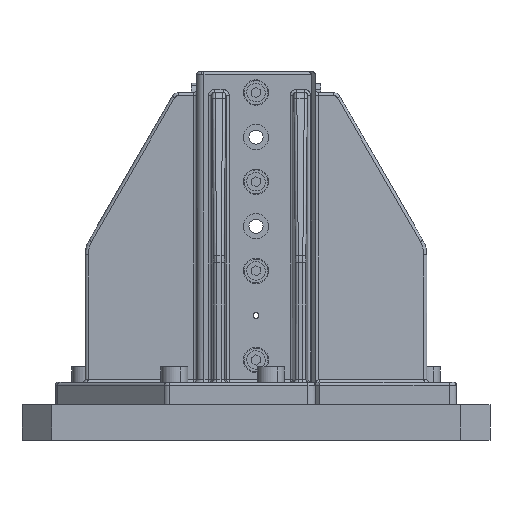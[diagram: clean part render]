
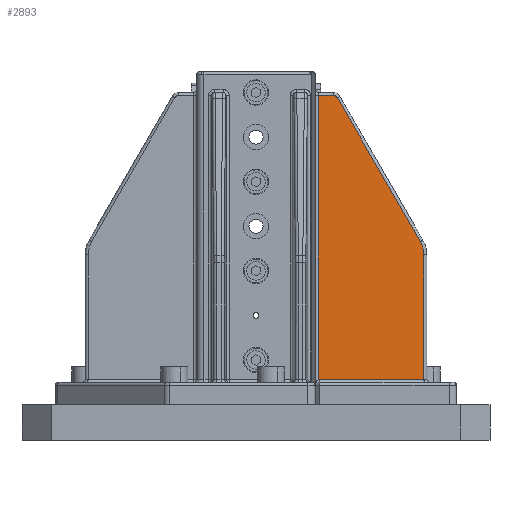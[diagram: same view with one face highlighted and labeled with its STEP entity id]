
A CAD part, front view. The second image highlights one B-rep face of the part: STEP entity #2893.
In plain terms, the highlighted planar face has unit normal (0.035, -0.999, 0).
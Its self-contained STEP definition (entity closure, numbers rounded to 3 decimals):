
#2893=ADVANCED_FACE('Volumen.1',(#6767),#6768,.F.);
#6767=FACE_OUTER_BOUND('',#13343,.T.);
#6768=PLANE('',#13344);
#13343=EDGE_LOOP('',(#22753,#22754,#22755,#22756,#22757,#22758,#22759,#22760));
#13344=AXIS2_PLACEMENT_3D('',#22761,#22762,#22763);
#22753=ORIENTED_EDGE('',*,*,#34057,.F.);
#22754=ORIENTED_EDGE('',*,*,#34058,.T.);
#22755=ORIENTED_EDGE('',*,*,#34059,.T.);
#22756=ORIENTED_EDGE('',*,*,#34060,.T.);
#22757=ORIENTED_EDGE('',*,*,#34061,.F.);
#22758=ORIENTED_EDGE('',*,*,#33727,.F.);
#22759=ORIENTED_EDGE('',*,*,#33723,.F.);
#22760=ORIENTED_EDGE('',*,*,#33719,.F.);
#22761=CARTESIAN_POINT('',(40.0,-35.0,136.5));
#22762=DIRECTION('',(-0.035,0.999,0.0));
#22763=DIRECTION('',(0.0,0.0,-1.0));
#33719=EDGE_CURVE('',#39794,#39796,#39797,.T.);
#33723=EDGE_CURVE('',#39796,#39802,#39803,.T.);
#33727=EDGE_CURVE('',#39802,#39808,#39809,.T.);
#34057=EDGE_CURVE('',#40267,#39794,#40268,.F.);
#34058=EDGE_CURVE('',#40267,#40269,#40270,.T.);
#34059=EDGE_CURVE('',#40269,#40271,#40272,.T.);
#34060=EDGE_CURVE('',#40271,#40273,#40274,.F.);
#34061=EDGE_CURVE('',#39808,#40273,#40275,.T.);
#39794=VERTEX_POINT('',#48143);
#39796=VERTEX_POINT('',#48145);
#39797=B_SPLINE_CURVE_WITH_KNOTS('',5,(#48146,#48147,#48148,#48149,#48150,#48151),.UNSPECIFIED.,.F.,.F.,(6,6),(15.269,21.377),.UNSPECIFIED.);
#39802=VERTEX_POINT('',#48166);
#39803=B_SPLINE_CURVE_WITH_KNOTS('',1,(#48167,#48168),.UNSPECIFIED.,.F.,.F.,(2,2),(-51.22,60.552),.UNSPECIFIED.);
#39808=VERTEX_POINT('',#48174);
#39809=B_SPLINE_CURVE_WITH_KNOTS('',4,(#48175,#48176,#48177,#48178,#48179),.UNSPECIFIED.,.F.,.F.,(5,5),(77.511,91.601),.UNSPECIFIED.);
#40267=VERTEX_POINT('',#49212);
#40268=LINE('',#49213,#49214);
#40269=VERTEX_POINT('',#49215);
#40270=LINE('',#49216,#49217);
#40271=VERTEX_POINT('',#49218);
#40272=B_SPLINE_CURVE_WITH_KNOTS('',3,(#49219,#49220,#49221,#49222),.UNSPECIFIED.,.F.,.F.,(4,4),(22.503,23.223),.UNSPECIFIED.);
#40273=VERTEX_POINT('',#49223);
#40274=LINE('',#49224,#49225);
#40275=LINE('',#49226,#49227);
#48143=CARTESIAN_POINT('',(52.183,-34.575,232.0));
#48145=CARTESIAN_POINT('',(54.781,-34.484,230.5));
#48146=CARTESIAN_POINT('',(52.183,-34.575,232.));
#48147=CARTESIAN_POINT('',(52.811,-34.553,232.));
#48148=CARTESIAN_POINT('',(53.44,-34.531,231.836));
#48149=CARTESIAN_POINT('',(54.01,-34.511,231.506));
#48150=CARTESIAN_POINT('',(54.467,-34.495,231.044));
#48151=CARTESIAN_POINT('',(54.781,-34.484,230.5));
#48166=CARTESIAN_POINT('',(110.658,-32.533,133.718));
#48167=CARTESIAN_POINT('',(54.781,-34.484,230.5));
#48168=CARTESIAN_POINT('',(110.658,-32.533,133.718));
#48174=CARTESIAN_POINT('',(113.07,-32.448,124.718));
#48175=CARTESIAN_POINT('',(110.658,-32.533,133.718));
#48176=CARTESIAN_POINT('',(111.836,-32.491,131.678));
#48177=CARTESIAN_POINT('',(112.658,-32.463,129.431));
#48178=CARTESIAN_POINT('',(113.07,-32.448,127.074));
#48179=CARTESIAN_POINT('',(113.07,-32.448,124.718));
#49212=CARTESIAN_POINT('',(41.93,-34.933,232.0));
#49213=CARTESIAN_POINT('',(77.771,-33.681,232.0));
#49214=VECTOR('',#58966,1.0);
#49215=CARTESIAN_POINT('',(41.93,-34.933,40.978));
#49216=CARTESIAN_POINT('',(41.93,-34.933,143.5));
#49217=VECTOR('',#58967,1.0);
#49218=CARTESIAN_POINT('',(42.499,-34.913,41.));
#49219=CARTESIAN_POINT('',(41.93,-34.933,40.978));
#49220=CARTESIAN_POINT('',(42.119,-34.926,40.993));
#49221=CARTESIAN_POINT('',(42.309,-34.919,41.));
#49222=CARTESIAN_POINT('',(42.499,-34.913,41.));
#49223=CARTESIAN_POINT('',(113.07,-32.448,41.0));
#49224=CARTESIAN_POINT('',(77.771,-33.681,41.0));
#49225=VECTOR('',#58968,1.0);
#49226=CARTESIAN_POINT('',(113.07,-32.448,143.5));
#49227=VECTOR('',#58969,1.0);
#58966=DIRECTION('',(-0.999,-0.035,0.0));
#58967=DIRECTION('',(0.0,0.0,-1.0));
#58968=DIRECTION('',(-0.999,-0.035,0.0));
#58969=DIRECTION('',(0.0,0.0,-1.0));
